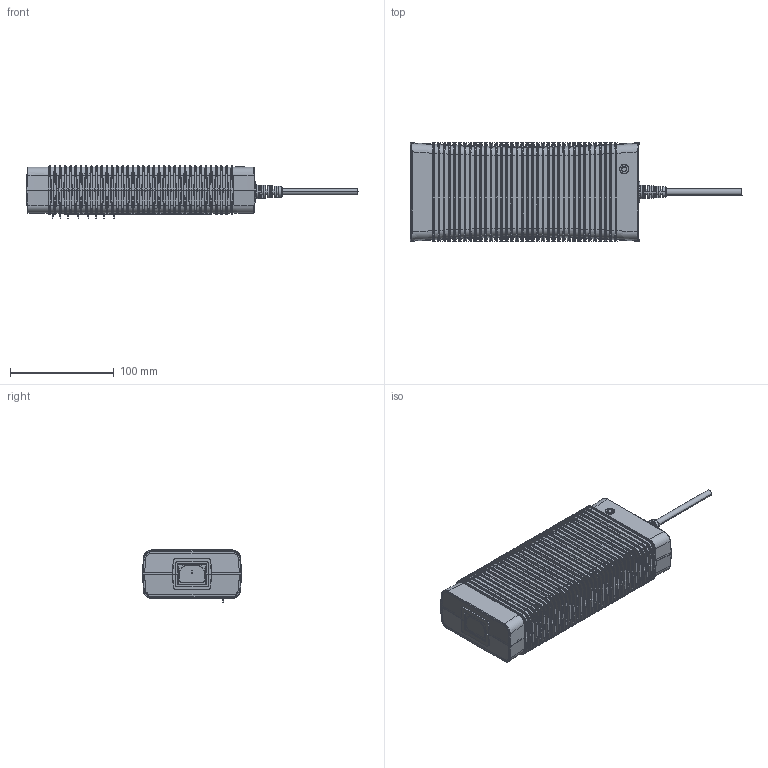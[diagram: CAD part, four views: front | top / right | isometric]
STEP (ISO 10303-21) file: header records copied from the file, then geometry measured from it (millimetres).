
FILE_DESCRIPTION(('Creo Elements/Direct Modeling STEP Export'),'2;1');
FILE_NAME('GST360A.stp','2023-03-16T11:09:11',(''),(''),'PTC Creo Elements/Direct Modeling STEP processor for AP214 (Solid Model)','PTC Creo Elements/Direct Modeling 19.0E 27-Jun-2016 (C) Parametric Technology GmbH','');
FILE_SCHEMA(('AUTOMOTIVE_DESIGN { 1 0 10303 214 1 1 1 1 }'));
Length unit declared in the file: millimetre
Products named in the file (115): LENS; LED; CASE; PCBA; PCBB; PCB; 11; 11.7; 11.6; 11.4; 11.1; 11.2; 11.3; 11.5; 22; 22.1; 22.1.1; 13; 13.2; 13.4; 13.1; 13.3; 13.5; 1380308352.ASM.12; EXTRUDED-40285.PRT; 1380308512.ASM; 1380308672.ASM; EXTRUDED-41029.PRT; 1380308832.ASM; EXTRUDED-41401.PRT; 1380308992.ASM; EXTRUDED-41773.PRT; 1380309152.ASM; 1380309312.ASM; EXTRUDED-42517.PRT; 1380309472.ASM; EXTRUDED-42914.PRT; 1380309632.ASM; 1380309792.ASM.20; EXTRUDED-44145.PRT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
Assembly tree (176 placements, depth 6):
  GST360
    1HH1
    方案2
      1GG1HS-GZ022
      1GG1HS-SZ123
        p5.1
      1GG1HS-SZ122
        新PIN2
        p5
      1GG3SHS-SZ007
        M3-7L.1.3.1
        M3-7L.1.3
        M3-7L.1.2
        M3.5-7L.1.1
        M3-7L.1
        HS1
      1GG3SHS-SZ008
    CASE下
    CASE上
    内部装配
      12
      11
      SOKECT
      MYLAr
      MOS
        MS1.1.1
        GBJ.1
        MOS15.5x10-1.1
        MS1.1
        GBJ.1.1
        MOS15.5x10-1
      DC_CABLE.1.1
      装配1
        11.8
        22.1.3.1
        Y.1.1.1.1.1
        22.1.3
        T1
        11.1.1.1.1
        11.1.1.1
        11.1.1
        11.3.1.1
        11.3.1
        22.1.2
        T1.ASM
          1377305712.ASM
            EXTRUDED-193068.PRT
          1377305552.ASM
            EXTRUDED-183336.PRT
          1377305392.ASM
            EXTRUDED-173604.PRT
          1377305232.ASM
            EXTRUDED-161922.PRT
          1377305072.ASM
            EXTRUDED-161550.PRT
          1379065840.ASM
            CYLINDER-161358.PRT
          1377304752.ASM
            EXTRUDED-151626.PRT
          1377304592.ASM
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Bounding box: 320.64 x 95.58 x 50.27 mm (x, y, z)
Volume: 491071.3 mm3; surface area: 445733.4 mm2
Topology: 93 solids, 93 shells, 5774 faces, 16096 edges, 10609 vertices
Faces by surface type: plane 3595, cylinder 1088, cone 543, bspline 326, torus 219, sphere 3
Entity records: 214648 total; most frequent: CARTESIAN_POINT 70494, ORIENTED_EDGE 26096, DIRECTION 23130, EDGE_CURVE 13048, VERTEX_POINT 8506, VECTOR 8376, LINE 8376, AXIS2_PLACEMENT_3D 7377
